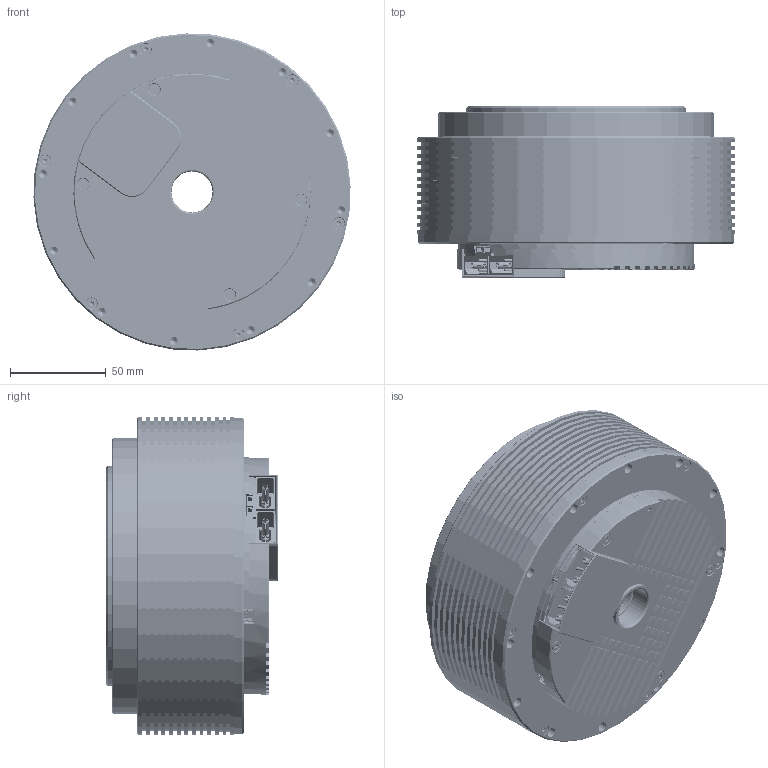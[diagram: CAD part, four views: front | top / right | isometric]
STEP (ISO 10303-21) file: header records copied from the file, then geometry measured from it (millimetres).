
FILE_DESCRIPTION (( 'STEP AP203' ), '1' );
FILE_NAME ('RMD-X15-P20-450 外形图.STEP', '2026-09-20T06:27:16', ( '微软用户' ), ( '微软中国' ), 'SwSTEP 2.0', 'SolidWorks 2020', '' );
FILE_SCHEMA (( 'CONFIG_CONTROL_DESIGN' ));
Length unit declared in the file: millimetre
Products named in the file (12): 8MT.013.043-V1_Default________.STEP; 8MT.034.013-____ D_Default________.STEP; XMT.105.016-V1_Default________.STEP; XMT.105.024-V1_Default________.STEP; M3X10.STEP; 8MT.013.033-V1_Default________.STEP; M4X8.STEP; X12X15驱动板; GB70.3 囀鞠褒麥芛蹟隊M3X16; RMD-X15-P20-450 俋倛芞; M2.5X5.STEP; XMT.112.007_Default________.STEP
Assembly tree (33 placements, depth 2):
  RMD-X15-P20-450 俋倛芞
    8MT.034.013-____ D_Default________.STEP
    XMT.105.016-V1_Default________.STEP
    8MT.013.043-V1_Default________.STEP
    XMT.105.024-V1_Default________.STEP
    8MT.013.033-V1_Default________.STEP
    XMT.112.007_Default________.STEP
    M2.5X5.STEP  x4
    M3X10.STEP  x6
    M4X8.STEP  x12
    GB70.3 囀鞠褒麥芛蹟隊M3X16  x4
    X12X15驱动板
Bounding box: 165.9 x 90 x 165.9 mm (x, y, z)
Volume: 345974.1 mm3; surface area: 292348.2 mm2
Topology: 68 solids, 68 shells, 5655 faces, 15150 edges, 9750 vertices
Faces by surface type: cylinder 2383, plane 2159, bspline 562, cone 541, torus 10
Entity records: 170804 total; most frequent: CARTESIAN_POINT 36430, ORIENTED_EDGE 27702, DIRECTION 26748, EDGE_CURVE 13851, AXIS2_PLACEMENT_3D 9523, VERTEX_POINT 9117, VECTOR 7702, LINE 7702
